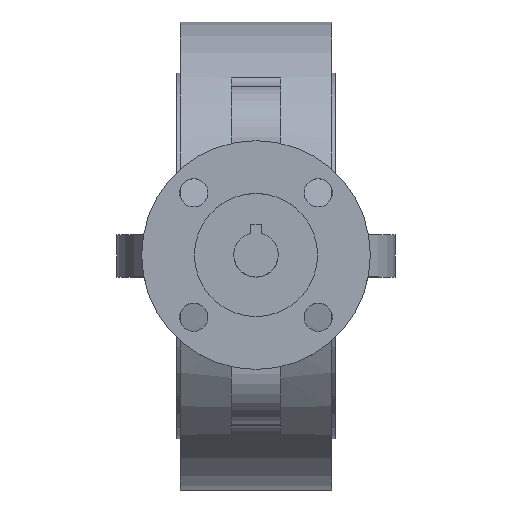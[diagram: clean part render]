
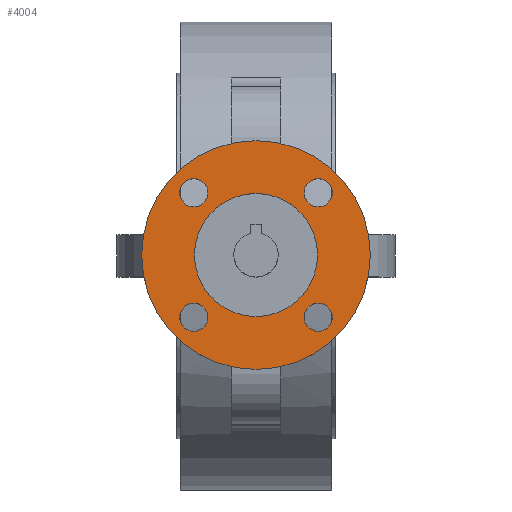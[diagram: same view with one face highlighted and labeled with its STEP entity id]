
A CAD part, top view. The second image highlights one B-rep face of the part: STEP entity #4004.
In plain terms, the highlighted planar face has unit normal (0, 0, 1).
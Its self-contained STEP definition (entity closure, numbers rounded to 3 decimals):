
#4004=ADVANCED_FACE('',(#8818,#8820,#8822,#8824,#8826,#8828),#8830,.T.);
#8818=FACE_BOUND('',#8819,.T.);
#8819=EDGE_LOOP('',(#12754));
#8820=FACE_BOUND('',#8821,.T.);
#8821=EDGE_LOOP('',(#12755));
#8822=FACE_BOUND('',#8823,.T.);
#8823=EDGE_LOOP('',(#12756));
#8824=FACE_BOUND('',#8825,.T.);
#8825=EDGE_LOOP('',(#12757));
#8826=FACE_BOUND('',#8827,.T.);
#8827=EDGE_LOOP('',(#12758));
#8828=FACE_BOUND('',#8829,.T.);
#8829=EDGE_LOOP('',(#12759));
#8830=PLANE('',#8831);
#8831=AXIS2_PLACEMENT_3D('',#8832,#8833,#8834);
#8832=CARTESIAN_POINT('',(0.,0.,160.));
#8833=DIRECTION('',(0.,0.,1.));
#8834=DIRECTION('',(0.,1.,0.));
#12754=ORIENTED_EDGE('',*,*,#14853,.F.);
#12755=ORIENTED_EDGE('',*,*,#14854,.T.);
#12756=ORIENTED_EDGE('',*,*,#14855,.T.);
#12757=ORIENTED_EDGE('',*,*,#14856,.T.);
#12758=ORIENTED_EDGE('',*,*,#15022,.T.);
#12759=ORIENTED_EDGE('',*,*,#14857,.T.);
#14853=EDGE_CURVE('',#17444,#17444,#17445,.T.);
#14854=EDGE_CURVE('',#17446,#17446,#17447,.F.);
#14855=EDGE_CURVE('',#17448,#17448,#17449,.F.);
#14856=EDGE_CURVE('',#17450,#17450,#17451,.F.);
#14857=EDGE_CURVE('',#17452,#17452,#17453,.F.);
#15022=EDGE_CURVE('',#17782,#17782,#17783,.T.);
#17444=VERTEX_POINT('',#24039);
#17445=CIRCLE('',#24040,32.5);
#17446=VERTEX_POINT('',#24044);
#17447=CIRCLE('',#24045,4.);
#17448=VERTEX_POINT('',#24049);
#17449=CIRCLE('',#24050,4.);
#17450=VERTEX_POINT('',#24054);
#17451=CIRCLE('',#24055,4.);
#17452=VERTEX_POINT('',#24059);
#17453=CIRCLE('',#24060,4.);
#17782=VERTEX_POINT('',#24844);
#17783=CIRCLE('',#24845,17.5);
#24039=CARTESIAN_POINT('',(0.,32.5,160.));
#24040=AXIS2_PLACEMENT_3D('',#24041,#24042,#24043);
#24041=CARTESIAN_POINT('',(0.,0.,160.));
#24042=DIRECTION('',(0.,0.,-1.));
#24043=DIRECTION('',(0.,1.,0.));
#24044=CARTESIAN_POINT('',(-13.678,-17.678,160.));
#24045=AXIS2_PLACEMENT_3D('',#24046,#24047,#24048);
#24046=CARTESIAN_POINT('',(-17.678,-17.678,160.));
#24047=DIRECTION('',(0.,0.,1.));
#24048=DIRECTION('',(1.,0.,0.));
#24049=CARTESIAN_POINT('',(-17.678,13.678,160.));
#24050=AXIS2_PLACEMENT_3D('',#24051,#24052,#24053);
#24051=CARTESIAN_POINT('',(-17.678,17.678,160.));
#24052=DIRECTION('',(0.,0.,1.));
#24053=DIRECTION('',(0.,-1.,0.));
#24054=CARTESIAN_POINT('',(13.678,17.678,160.));
#24055=AXIS2_PLACEMENT_3D('',#24056,#24057,#24058);
#24056=CARTESIAN_POINT('',(17.678,17.678,160.));
#24057=DIRECTION('',(0.,0.,1.));
#24058=DIRECTION('',(-1.,0.,0.));
#24059=CARTESIAN_POINT('',(17.678,-13.678,160.));
#24060=AXIS2_PLACEMENT_3D('',#24061,#24062,#24063);
#24061=CARTESIAN_POINT('',(17.678,-17.678,160.));
#24062=DIRECTION('',(0.,0.,1.));
#24063=DIRECTION('',(0.,1.,0.));
#24844=CARTESIAN_POINT('',(0.,17.5,160.));
#24845=AXIS2_PLACEMENT_3D('',#24846,#24847,#24848);
#24846=CARTESIAN_POINT('',(0.,0.,160.));
#24847=DIRECTION('',(0.,0.,-1.));
#24848=DIRECTION('',(0.,1.,0.));
